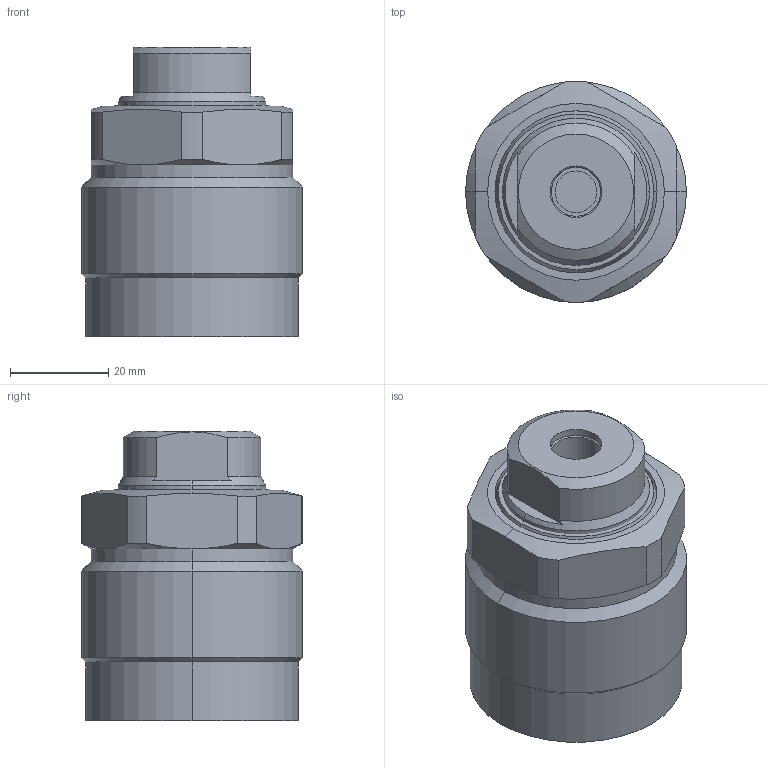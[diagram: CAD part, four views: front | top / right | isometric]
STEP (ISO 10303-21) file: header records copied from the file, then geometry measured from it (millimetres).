
FILE_DESCRIPTION((' '),'2;1');
FILE_NAME( 'TGP45-AS.x_t.stp', '2025-02-10T16:03:56', (' '), ('--- Datakit www.datakit.com---'), ' Datakit CrossCadWare V2024.1 Dec 21 2023', 'Mastercam 2025', ' ');
FILE_SCHEMA(('AUTOMOTIVE_DESIGN { 1 0 10303 214 1 1 1 1 }'));
Length unit declared in the file: millimetre
Products named in the file (1): TGP45-AS
Bounding box: 45 x 45 x 59 mm (x, y, z)
Volume: 81724.8 mm3; surface area: 14454.4 mm2
Topology: 2 solids, 2 shells, 78 faces, 182 edges, 115 vertices
Faces by surface type: cylinder 34, plane 22, cone 18, torus 4
Entity records: 2380 total; most frequent: CARTESIAN_POINT 542, DIRECTION 408, ORIENTED_EDGE 360, EDGE_CURVE 180, AXIS2_PLACEMENT_3D 173, VERTEX_POINT 115, CIRCLE 94, EDGE_LOOP 87
